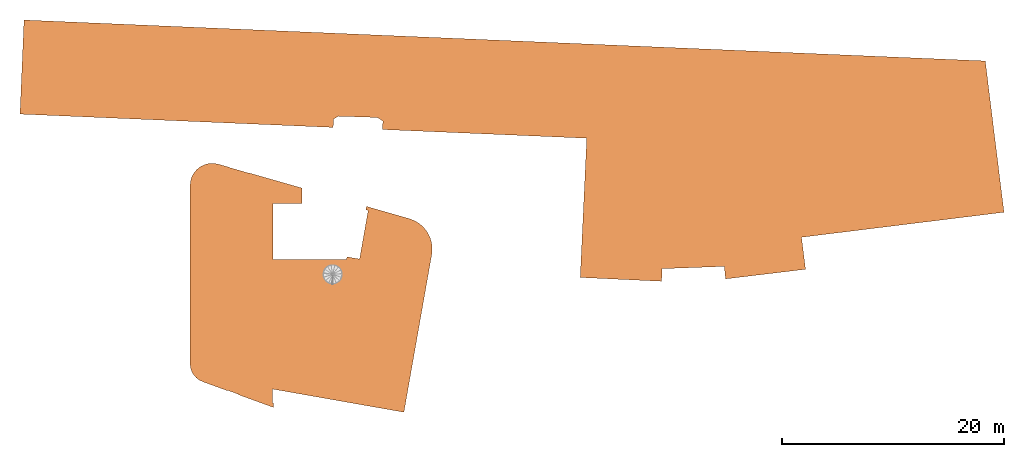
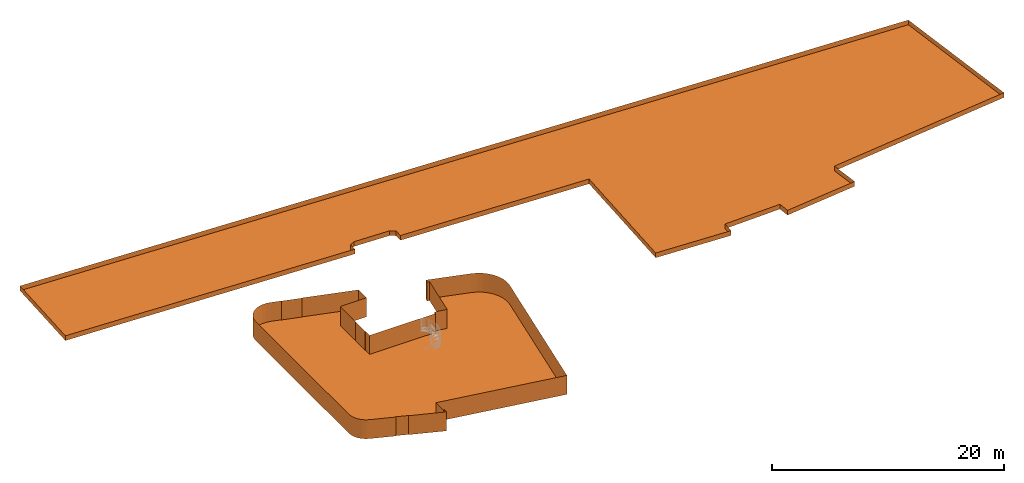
# One storey, part 2 of 2: 2 proxies.
"""IFC2X3 building model written with IfcOpenShell, lengths in millimetres."""

from ifc_helpers import new_model, entity, si_unit, converted_unit, derived_unit, direction, frame, origin, place, context, subcontext, project, spatial, face_set, surface_model, type_object, element, save


model = new_model("IFC2X3")

# Units and contexts
model_context = context("Model", 3, precision=0.01, world=origin(), true_north=direction((6.12303176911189e-17, 1.0)))
body_context = subcontext(model_context, "Body", "Model", "MODEL_VIEW")
ifc_project = project(units=[si_unit("LENGTHUNIT", "METRE", prefix="MILLI"), si_unit("AREAUNIT", "SQUARE_METRE"), si_unit("VOLUMEUNIT", "CUBIC_METRE"), converted_unit("PLANEANGLEUNIT", "DEGREE", entity("IfcRatioMeasure", 0.0174532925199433), si_unit("PLANEANGLEUNIT", "RADIAN"), dimensions=[0, 0, 0, 0, 0, 0, 0]), si_unit("MASSUNIT", "GRAM", prefix="KILO"), derived_unit("MASSDENSITYUNIT", [(si_unit("MASSUNIT", "GRAM", prefix="KILO"), 1), (si_unit("LENGTHUNIT", "METRE"), -3)]), derived_unit("MOMENTOFINERTIAUNIT", [(si_unit("LENGTHUNIT", "METRE"), 4)]), si_unit("TIMEUNIT", "SECOND"), si_unit("FREQUENCYUNIT", "HERTZ"), si_unit("THERMODYNAMICTEMPERATUREUNIT", "DEGREE_CELSIUS"), derived_unit("THERMALTRANSMITTANCEUNIT", [(si_unit("MASSUNIT", "GRAM", prefix="KILO"), 1), (si_unit("THERMODYNAMICTEMPERATUREUNIT", "KELVIN"), -1), (si_unit("TIMEUNIT", "SECOND"), -3)]), derived_unit("VOLUMETRICFLOWRATEUNIT", [(si_unit("LENGTHUNIT", "METRE"), 3), (si_unit("TIMEUNIT", "SECOND"), -1)]), si_unit("ELECTRICCURRENTUNIT", "AMPERE"), si_unit("ELECTRICVOLTAGEUNIT", "VOLT"), si_unit("POWERUNIT", "WATT"), si_unit("FORCEUNIT", "NEWTON", prefix="KILO"), si_unit("ILLUMINANCEUNIT", "LUX"), si_unit("LUMINOUSFLUXUNIT", "LUMEN"), si_unit("LUMINOUSINTENSITYUNIT", "CANDELA"), derived_unit("USERDEFINED", [(si_unit("MASSUNIT", "GRAM", prefix="KILO"), -1), (si_unit("LENGTHUNIT", "METRE"), -2), (si_unit("TIMEUNIT", "SECOND"), 3), (si_unit("LUMINOUSFLUXUNIT", "LUMEN"), 1)]), derived_unit("LINEARVELOCITYUNIT", [(si_unit("LENGTHUNIT", "METRE"), 1), (si_unit("TIMEUNIT", "SECOND"), -1)]), si_unit("PRESSUREUNIT", "PASCAL"), derived_unit("USERDEFINED", [(si_unit("LENGTHUNIT", "METRE"), -2), (si_unit("MASSUNIT", "GRAM", prefix="KILO"), 1), (si_unit("TIMEUNIT", "SECOND"), -2)]), derived_unit("LINEARFORCEUNIT", [(si_unit("MASSUNIT", "GRAM", prefix="KILO"), 1), (si_unit("LENGTHUNIT", "METRE"), 1), (si_unit("TIMEUNIT", "SECOND"), -2), (si_unit("LENGTHUNIT", "METRE"), -1)]), derived_unit("PLANARFORCEUNIT", [(si_unit("MASSUNIT", "GRAM", prefix="KILO"), 1), (si_unit("LENGTHUNIT", "METRE"), 1), (si_unit("TIMEUNIT", "SECOND"), -2), (si_unit("LENGTHUNIT", "METRE"), -2)])], contexts=[model_context])

# Site, building, storey
site_placement = place(None, origin())
site = spatial("IfcSite", under=ifc_project, at=site_placement, Name="<Kadaster Gemeente>;<Kadaster nummer>;<Kadaster sectie>", CompositionType="ELEMENT")
building_placement = place(site_placement, origin())
building = spatial("IfcBuilding", under=site, at=building_placement, Name="JRCZ Middelburg", CompositionType="ELEMENT")
storey_placement = place(building_placement, frame((0.0, 0.0, -4000.0)))
storey = spatial("IfcBuildingStorey", under=building, at=storey_placement, Name="-1 kelder", CompositionType="ELEMENT", Elevation=-4000.0)

# Proxies
building_element_proxy_type_1 = type_object("IfcBuildingElementProxyType", Name="Surface", PredefinedType="NOTDEFINED")
proxy_1_placement = place(storey_placement, frame((-5435.78390350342, 17268.3296813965, 3498.84047393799)))
element("IfcBuildingElementProxy", 1, at=proxy_1_placement, inside=storey, type_object=building_element_proxy_type_1, Name="Surface", context=body_context, shape_type="SurfaceModel", body=[
    surface_model("IfcFaceBasedSurfaceModel", [(0.0, 15037.5123596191, 0.0), (19253.9230178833, 14217.5135742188, 501.159526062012), (0.0, 15037.5123596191, 501.159526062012), (19253.9230178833, 14217.5135742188, 0.0), (28165.429069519, 13837.9855773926, 501.159526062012), (28165.429069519, 13837.9855773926, 0.0), (28198.0828903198, 14604.3783325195, 501.159526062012), (28198.0828903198, 14604.3783325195, 0.0), (28663.2614730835, 14844.2450866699, 501.159526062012), (28663.2614730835, 14844.2450866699, 0.0), (32129.27084198, 14732.7704956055, 501.159526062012), (32129.27084198, 14732.7704956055, 0.0), (32634.0353805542, 14415.4596313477, 501.159526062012), (32634.0353805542, 14415.4596313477, 0.0), (32601.3955123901, 13649.0645507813, 501.159526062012), (32601.3955123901, 13649.0645507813, 0.0), (39002.0350570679, 13376.4695617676, 501.159526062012), (39002.0350570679, 13376.4695617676, 0.0), (43884.1579879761, 13168.5450439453, 501.159526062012), (43884.1579879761, 13168.5450439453, 0.0), (46373.0479293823, 13062.546862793, 501.159526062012), (46373.0479293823, 13062.546862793, 0.0), (50972.297428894, 12866.6704467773, 501.159526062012), (50972.297428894, 12866.6704467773, 0.0), (50384.4960983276, 343.246490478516, 501.159526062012), (50384.4960983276, 343.246490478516, 0.0), (57703.5795822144, 0.0, 501.159526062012), (57703.5795822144, 0.0, 0.0), (57760.6179611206, 1131.9646270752, 501.159526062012), (57760.6179611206, 1131.9646270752, 0.0), (63344.8119918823, 1336.11146850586, 501.159526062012), (63344.8119918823, 1336.11146850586, 0.0), (63452.1124191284, 209.824401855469, 501.159526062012), (63452.1124191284, 209.824401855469, 0.0), (70648.0778366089, 1077.76444702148, 501.159526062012), (70648.0778366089, 1077.76444702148, 0.0), (70292.2669967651, 3958.10723876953, 501.159526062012), (70292.2669967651, 3958.10723876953, 0.0), (88498.8812667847, 6207.17228393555, 501.159526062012), (88498.8812667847, 6207.17228393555, 0.0), (86817.5606369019, 19817.7415100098, 501.159526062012), (86817.5606369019, 19817.7415100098, 0.0), (62591.5044845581, 20849.4994628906, 501.159526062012), (62591.5044845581, 20849.4994628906, 0.0), (60912.4488327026, 20921.0067260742, 501.159526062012), (60912.4488327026, 20921.0067260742, 0.0), (57618.863822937, 21061.2772338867, 501.159526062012), (57618.863822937, 21061.2772338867, 0.0), (8711.23920593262, 23144.189630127, 501.159526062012), (8711.23920593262, 23144.189630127, 0.0), (360.399513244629, 23499.8423400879, 501.159526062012), (360.399513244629, 23499.8423400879, 0.0)], [face_set([[[0, 1, 2]], [[0, 3, 1]], [[3, 4, 1]], [[3, 5, 4]], [[5, 6, 4]], [[5, 7, 6]], [[7, 8, 6]], [[7, 9, 8]], [[9, 10, 8]], [[9, 11, 10]], [[11, 12, 10]], [[11, 13, 12]], [[13, 14, 12]], [[13, 15, 14]], [[15, 16, 14]], [[15, 17, 16]], [[17, 18, 16]], [[17, 19, 18]], [[19, 20, 18]], [[19, 21, 20]], [[21, 22, 20]], [[21, 23, 22]], [[23, 24, 22]], [[23, 25, 24]], [[25, 26, 24]], [[25, 27, 26]], [[27, 28, 26]], [[27, 29, 28]], [[29, 30, 28]], [[29, 31, 30]], [[31, 32, 30]], [[31, 33, 32]], [[33, 34, 32]], [[33, 35, 34]], [[35, 36, 34]], [[35, 37, 36]], [[37, 38, 36]], [[37, 39, 38]], [[39, 40, 38]], [[39, 41, 40]], [[41, 42, 40]], [[41, 43, 42]], [[43, 44, 42]], [[43, 45, 44]], [[45, 46, 44]], [[45, 47, 46]], [[47, 48, 46]], [[47, 49, 48]], [[49, 50, 48]], [[49, 51, 50]], [[51, 2, 50]], [[51, 0, 2]]]), face_set([[[15, 23, 13]], [[51, 0, 7]], [[9, 11, 51]], [[7, 9, 51]], [[0, 5, 7]], [[51, 11, 41]], [[13, 23, 11]], [[29, 23, 25]], [[31, 33, 35]], [[23, 31, 37]], [[31, 23, 29]], [[37, 39, 41]], [[37, 31, 35]], [[37, 41, 23]], [[23, 41, 11]], [[29, 25, 27]]])]),
])
building_element_proxy_type_2 = type_object("IfcBuildingElementProxyType", Name="Surface", PredefinedType="NOTDEFINED")
proxy_2_placement = place(storey_placement, frame((9861.99803466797, 5490.1491897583, 1998.8404624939)))
element("IfcBuildingElementProxy", 2, at=proxy_2_placement, inside=storey, type_object=building_element_proxy_type_2, Name="Surface", context=body_context, shape_type="SurfaceModel", body=[
    surface_model("IfcFaceBasedSurfaceModel", [(19715.3221801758, 17410.5785568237, 0.0), (17138.7422424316, 18149.4009017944, 2001.1595375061), (19715.3221801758, 17410.5785568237, 2001.1595375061), (17138.7422424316, 18149.4009017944, 0.0), (15872.2265258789, 18512.5671066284, 2001.1595375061), (15872.2265258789, 18512.5671066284, 0.0), (15787.8828369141, 18218.4222702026, 2001.1595375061), (15787.8828369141, 18218.4222702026, 0.0), (16015.7131164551, 18153.1890426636, 2001.1595375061), (16015.7131164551, 18153.1890426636, 0.0), (15911.1148498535, 17559.9810653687, 2001.1595375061), (15911.1148498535, 17559.9810653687, 0.0), (15780.4111999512, 16818.7239852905, 2001.1595375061), (15780.4111999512, 16818.7239852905, 0.0), (15244.2113708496, 13777.7863449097, 2001.1595375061), (15244.2113708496, 13777.7863449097, 0.0), (14105.4645996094, 13978.5787399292, 2001.1595375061), (14105.4645996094, 13978.5787399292, 0.0), (14063.1276489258, 13738.4736282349, 2001.1595375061), (14063.1276489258, 13738.4736282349, 0.0), (11149.0776123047, 13738.4736282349, 2001.1595375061), (11149.0776123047, 13738.4736282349, 0.0), (8047.35879821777, 13738.4736282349, 2001.1595375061), (8047.35879821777, 13738.4736282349, 0.0), (7476.00181274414, 13738.4736282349, 2001.1595375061), (7476.00181274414, 13738.4736282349, 0.0), (7476.00181274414, 14439.8622116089, 2001.1595375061), (7476.00181274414, 14439.8622116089, 0.0), (7452.00211486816, 14439.8622116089, 2001.1595375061), (7452.00211486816, 14439.8622116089, 0.0), (7452.00211486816, 16106.8604598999, 2001.1595375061), (7452.00211486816, 16106.8604598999, 0.0), (7476.00181274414, 16106.8604598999, 2001.1595375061), (7476.00181274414, 16106.8604598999, 0.0), (7476.00181274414, 16175.9446151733, 2001.1595375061), (7476.00181274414, 16175.9446151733, 0.0), (7476.00181274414, 18771.8512802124, 2001.1595375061), (7476.00181274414, 18771.8512802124, 0.0), (9965.91494750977, 18771.8512802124, 2001.1595375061), (9965.91494750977, 18771.8512802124, 0.0), (10075.6338317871, 18771.8512802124, 2001.1595375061), (10075.6338317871, 18771.8512802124, 0.0), (10075.6338317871, 18886.2396469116, 2001.1595375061), (10075.6338317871, 18886.2396469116, 0.0), (10075.6338317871, 20155.9877243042, 2001.1595375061), (10075.6338317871, 20155.9877243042, 0.0), (5232.77362060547, 21543.3611801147, 2001.1595375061), (5232.77362060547, 21543.3611801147, 0.0), (5226.50074768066, 21521.4880966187, 2001.1595375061), (5226.50074768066, 21521.4880966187, 0.0), (3496.2307800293, 22017.6345565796, 2001.1595375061), (3496.2307800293, 22017.6345565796, 0.0), (3502.37575378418, 22039.0844100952, 2001.1595375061), (3502.37575378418, 22039.0844100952, 0.0), (2539.42871704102, 22314.9466415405, 2001.1595375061), (2539.42871704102, 22314.9466415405, 0.0), (2137.24163818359, 22386.5701766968, 2001.1595375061), (2137.24163818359, 22386.5701766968, 0.0), (1728.90260925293, 22374.6057907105, 2001.1595375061), (1728.90260925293, 22374.6057907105, 0.0), (1331.59895324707, 22279.553453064, 2001.1595375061), (1331.59895324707, 22279.553453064, 0.0), (962.05871887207, 22105.4175704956, 2001.1595375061), (962.05871887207, 22105.4175704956, 0.0), (635.83444519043, 21859.5279281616, 2001.1595375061), (635.83444519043, 21859.5279281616, 0.0), (366.660177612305, 21552.2327316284, 2001.1595375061), (366.660177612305, 21552.2327316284, 0.0), (165.867782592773, 21196.4707260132, 2001.1595375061), (165.867782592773, 21196.4707260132, 0.0), (41.9079071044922, 20807.217741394, 2001.1595375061), (41.9079071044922, 20807.217741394, 0.0), (0.0, 20400.8588241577, 2001.1595375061), (0.0, 20400.8588241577, 0.0), (0.0, 8381.69478607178, 2001.1595375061), (0.0, 8381.69478607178, 0.0), (0.0, 6088.12780609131, 2001.1595375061), (0.0, 6088.12780609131, 0.0), (0.0, 4353.49996490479, 2001.1595375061), (0.0, 4353.49996490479, 0.0), (29.3796020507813, 4075.49949188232, 2001.1595375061), (29.3796020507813, 4075.49949188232, 0.0), (36.9489074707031, 4003.87653808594, 2001.1595375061), (36.9489074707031, 4003.87653808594, 0.0), (144.607452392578, 3669.19580383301, 2001.1595375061), (144.607452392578, 3669.19580383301, 0.0), (318.424749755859, 3363.59875946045, 2001.1595375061), (318.424749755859, 3363.59875946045, 0.0), (551.055899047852, 3100.00031433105, 2001.1595375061), (551.055899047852, 3100.00031433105, 0.0), (832.672430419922, 2889.53816070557, 2001.1595375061), (832.672430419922, 2889.53816070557, 0.0), (1151.37158203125, 2741.10652313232, 2001.1595375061), (1151.37158203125, 2741.10652313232, 0.0), (3334.97085571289, 1946.34166259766, 2001.1595375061), (3334.97085571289, 1946.34166259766, 0.0), (3348.30957641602, 1982.99000701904, 2001.1595375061), (3348.30957641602, 1982.99000701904, 0.0), (4366.9369354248, 1612.24054412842, 2001.1595375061), (4366.9369354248, 1612.24054412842, 0.0), (4353.59705200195, 1575.59219970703, 2001.1595375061), (4353.59705200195, 1575.59219970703, 0.0), (7482.0014465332, 436.946003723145, 2001.1595375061), (7482.0014465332, 436.946003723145, 0.0), (7482.0014465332, 821.813209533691, 2001.1595375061), (7482.0014465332, 821.813209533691, 0.0), (7392.00228881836, 821.813209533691, 2001.1595375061), (7392.00228881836, 821.813209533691, 0.0), (7392.00228881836, 2087.71035919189, 2001.1595375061), (7392.00228881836, 2087.71035919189, 0.0), (19231.9935424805, 0.0, 2001.1595375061), (19231.9935424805, 0.0, 0.0), (21665.5194213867, 13803.7684799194, 2001.1595375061), (21665.5194213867, 13803.7684799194, 0.0), (21733.9361755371, 14191.8447921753, 2001.1595375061), (21733.9361755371, 14191.8447921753, 0.0), (21776.8754150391, 14709.83177948, 2001.1595375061), (21776.8754150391, 14709.83177948, 0.0), (21724.4879150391, 15226.9490524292, 2001.1595375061), (21724.4879150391, 15226.9490524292, 0.0), (21578.5363586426, 15725.7976730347, 2001.1595375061), (21578.5363586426, 15725.7976730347, 0.0), (21343.9274230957, 16189.6019210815, 2001.1595375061), (21343.9274230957, 16189.6019210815, 0.0), (21028.5583007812, 16602.7534469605, 2001.1595375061), (21028.5583007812, 16602.7534469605, 0.0), (20643.0329956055, 16951.357749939, 2001.1595375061), (20643.0329956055, 16951.357749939, 0.0), (20200.3228088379, 17223.6853134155, 2001.1595375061), (20200.3228088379, 17223.6853134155, 0.0)], [face_set([[[0, 1, 2]], [[0, 3, 1]], [[3, 4, 1]], [[3, 5, 4]], [[5, 6, 4]], [[5, 7, 6]], [[7, 8, 6]], [[7, 9, 8]], [[9, 10, 8]], [[9, 11, 10]], [[11, 12, 10]], [[11, 13, 12]], [[13, 14, 12]], [[13, 15, 14]], [[15, 16, 14]], [[15, 17, 16]], [[17, 18, 16]], [[17, 19, 18]], [[19, 20, 18]], [[19, 21, 20]], [[21, 22, 20]], [[21, 23, 22]], [[23, 24, 22]], [[23, 25, 24]], [[25, 26, 24]], [[25, 27, 26]], [[27, 28, 26]], [[27, 29, 28]], [[29, 30, 28]], [[29, 31, 30]], [[31, 32, 30]], [[31, 33, 32]], [[33, 34, 32]], [[33, 35, 34]], [[35, 36, 34]], [[35, 37, 36]], [[37, 38, 36]], [[37, 39, 38]], [[39, 40, 38]], [[39, 41, 40]], [[41, 42, 40]], [[41, 43, 42]], [[43, 44, 42]], [[43, 45, 44]], [[45, 46, 44]], [[45, 47, 46]], [[47, 48, 46]], [[47, 49, 48]], [[49, 50, 48]], [[49, 51, 50]], [[51, 52, 50]], [[51, 53, 52]], [[53, 54, 52]], [[53, 55, 54]], [[55, 56, 54]], [[55, 57, 56]], [[57, 58, 56]], [[57, 59, 58]], [[59, 60, 58]], [[59, 61, 60]], [[61, 62, 60]], [[61, 63, 62]], [[63, 64, 62]], [[63, 65, 64]], [[65, 66, 64]], [[65, 67, 66]], [[67, 68, 66]], [[67, 69, 68]], [[69, 70, 68]], [[69, 71, 70]], [[71, 72, 70]], [[71, 73, 72]], [[73, 74, 72]], [[73, 75, 74]], [[75, 76, 74]], [[75, 77, 76]], [[77, 78, 76]], [[77, 79, 78]], [[79, 80, 78]], [[79, 81, 80]], [[81, 82, 80]], [[81, 83, 82]], [[83, 84, 82]], [[83, 85, 84]], [[85, 86, 84]], [[85, 87, 86]], [[87, 88, 86]], [[87, 89, 88]], [[89, 90, 88]], [[89, 91, 90]], [[91, 92, 90]], [[91, 93, 92]], [[93, 94, 92]], [[93, 95, 94]], [[95, 96, 94]], [[95, 97, 96]], [[97, 98, 96]], [[97, 99, 98]], [[99, 100, 98]], [[99, 101, 100]], [[101, 102, 100]], [[101, 103, 102]], [[103, 104, 102]], [[103, 105, 104]], [[105, 106, 104]], [[105, 107, 106]], [[107, 108, 106]], [[107, 109, 108]], [[109, 110, 108]], [[109, 111, 110]], [[111, 112, 110]], [[111, 113, 112]], [[113, 114, 112]], [[113, 115, 114]], [[115, 116, 114]], [[115, 117, 116]], [[117, 118, 116]], [[117, 119, 118]], [[119, 120, 118]], [[119, 121, 120]], [[121, 122, 120]], [[121, 123, 122]], [[123, 124, 122]], [[123, 125, 124]], [[125, 126, 124]], [[125, 127, 126]], [[127, 128, 126]], [[127, 129, 128]], [[129, 2, 128]], [[129, 0, 2]]]), face_set([[[85, 87, 89]], [[83, 85, 91]], [[93, 79, 83]], [[37, 49, 73]], [[89, 91, 85]], [[101, 107, 99]], [[107, 101, 103]], [[25, 73, 79]], [[93, 97, 79]], [[95, 97, 93]], [[97, 25, 79]], [[91, 93, 83]], [[97, 99, 109]], [[69, 63, 67]], [[61, 69, 71]], [[67, 63, 65]], [[63, 69, 61]], [[71, 59, 61]], [[73, 55, 57]], [[37, 47, 49]], [[71, 73, 59]], [[57, 59, 73]], [[51, 53, 55]], [[73, 51, 55]], [[73, 49, 51]], [[109, 99, 107]], [[105, 107, 103]], [[25, 109, 19]], [[29, 25, 27]], [[29, 73, 25]], [[29, 31, 73]], [[19, 111, 15]], [[111, 19, 109]], [[15, 111, 115]], [[19, 15, 17]], [[127, 115, 117]], [[0, 15, 115]], [[119, 125, 117]], [[37, 31, 33]], [[37, 45, 47]], [[45, 37, 41]], [[7, 9, 5]], [[31, 37, 73]], [[119, 123, 125]], [[125, 127, 117]], [[9, 0, 5]], [[15, 0, 9]], [[0, 115, 129]], [[129, 115, 127]], [[119, 121, 123]], [[97, 109, 25]]])]),
])

save(model, "model.ifc")
